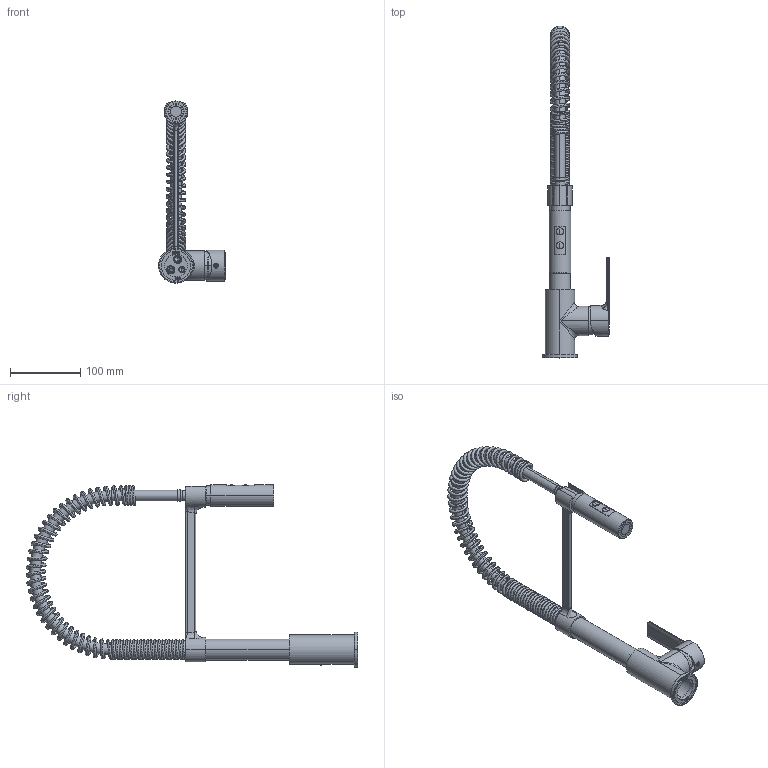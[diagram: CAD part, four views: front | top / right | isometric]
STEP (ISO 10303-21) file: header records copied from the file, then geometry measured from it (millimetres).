
FILE_DESCRIPTION((''),'2;1');
FILE_NAME('F3147_1_FILE_3D','2018-10-12T',('ivanv'),(''),'CREO PARAMETRIC BY PTC INC, 2016260','CREO PARAMETRIC BY PTC INC, 2016260','');
FILE_SCHEMA(('CONFIG_CONTROL_DESIGN'));
Length unit declared in the file: millimetre
Products named in the file (1): F3147_1_FILE_3D
Bounding box: 95.5 x 473.84 x 260.15 mm (x, y, z)
Volume: 424737.5 mm3; surface area: 200180.5 mm2
Topology: 4 solids, 4 shells, 1659 faces, 4327 edges, 2743 vertices
Faces by surface type: plane 876, cylinder 278, bspline 141, extrusion 137, cone 126, torus 77, sphere 24
Entity records: 102926 total; most frequent: CARTESIAN_POINT 63717, ORIENTED_EDGE 8592, DIRECTION 7230, EDGE_CURVE 4296, VECTOR 2868, VERTEX_POINT 2743, LINE 2731, AXIS2_PLACEMENT_3D 2181
